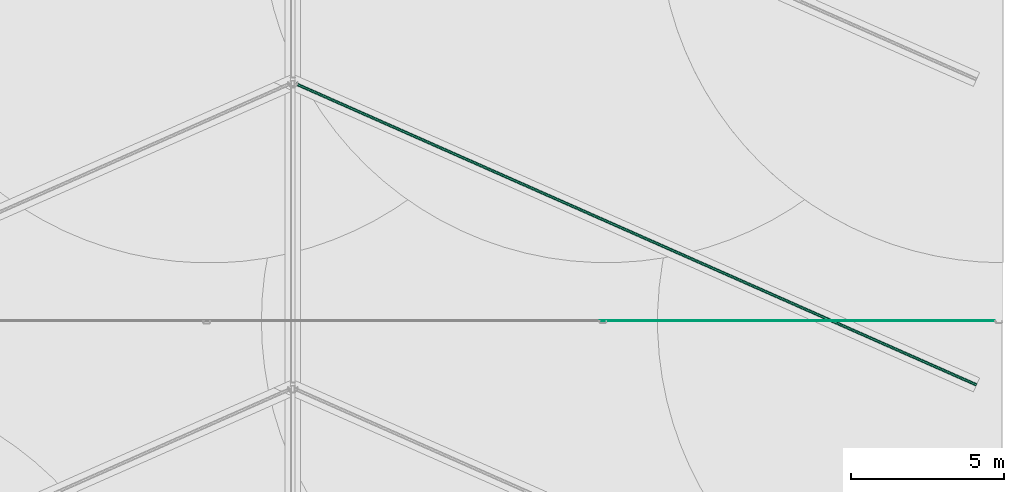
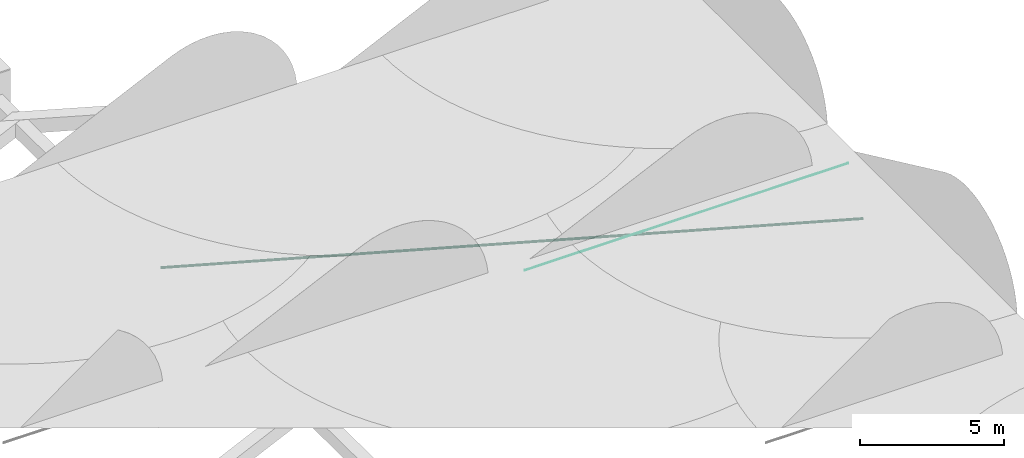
# One storey, part 43 of 166: 2 flow segments.
"""IFC2X3 building model written with IfcOpenShell, lengths in metres."""

from ifc_helpers import new_model, entity, si_unit, converted_unit, direction, frame, origin, origin_2d_with_axis, place, context, subcontext, project, spatial, circle, extrude, type_object, element, save


model = new_model("IFC2X3")

# Units and contexts
model_context = context("Model", 3, precision=1e-05, world=origin(), true_north=direction((6.123233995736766e-17, 1.0)))
body_context = subcontext(model_context, "Body", "Model", "MODEL_VIEW")
ifc_project = project(units=[si_unit("LENGTHUNIT", "METRE"), converted_unit("PLANEANGLEUNIT", "DEGREE", entity("IfcPlaneAngleMeasure", 0.017453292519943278), si_unit("PLANEANGLEUNIT", "RADIAN"), dimensions=[0, 0, 0, 0, 0, 0, 0]), si_unit("AREAUNIT", "SQUARE_METRE")], contexts=[model_context])

# Site, building, storey
site_placement = place(None, origin())
site = spatial("IfcSite", under=ifc_project, at=site_placement, Name="Default", CompositionType="ELEMENT")
building_placement = place(site_placement, origin())
building = spatial("IfcBuilding", under=site, at=building_placement, Name="CASA DE ACOLHIDA PARA IDOSOS", CompositionType="ELEMENT")
storey_placement = place(building_placement, frame((0.0, 0.0, -1.7499999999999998)))
storey = spatial("IfcBuildingStorey", under=building, at=storey_placement, Name="IMPLANTAÇÃO DRENAGEM", CompositionType="ELEMENT", Elevation=-1.7499999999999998)

# Flow segments
pipe_segment_type_1 = type_object("IfcPipeSegmentType", Name="Tipos de tubos:PLUV_Tubo PEAD Corrugado", PredefinedType="NOTDEFINED")
flow_segment_1_placement = place(storey_placement, origin())
element("IfcFlowSegment", 1, at=flow_segment_1_placement, inside=storey, type_object=pipe_segment_type_1, Name="Tipos de tubos:PLUV_Tubo PEAD Corrugado", ObjectType="Tipos de tubos:PLUV_Tubo PEAD Corrugado", context=body_context, shape_type="SweptSolid", body=[
    extrude(circle(Radius=0.05, at=origin_2d_with_axis()), frame((45.35555726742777, 33.95305791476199, -1.05000995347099), z_axis=(-0.9144899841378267, 0.40448495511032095, -0.009999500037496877), x_axis=(0.4045051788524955, 0.9145357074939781, 0.0)), (0.0, 0.0, 1.0), 24.480228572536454),
])
pipe_segment_type_2 = type_object("IfcPipeSegmentType", Name="Tipos de tubos:AF_Tubo Marrom Soldável", PredefinedType="NOTDEFINED")
flow_segment_2_placement = place(storey_placement, origin())
element("IfcFlowSegment", 2, at=flow_segment_2_placement, inside=storey, type_object=pipe_segment_type_2, Name="Tipos de tubos:AF_Tubo Marrom Soldável", ObjectType="Tipos de tubos:AF_Tubo Marrom Soldável", context=body_context, shape_type="SweptSolid", body=[
    extrude(circle(Radius=0.0125, at=origin_2d_with_axis()), frame((33.02495110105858, 36.05494207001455, -0.19999999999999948), z_axis=(1.0, 0.0, 0.0), x_axis=(0.0, -1.0, 0.0)), (0.0, 0.0, 1.0), 12.9336),
])

save(model, "model.ifc")
